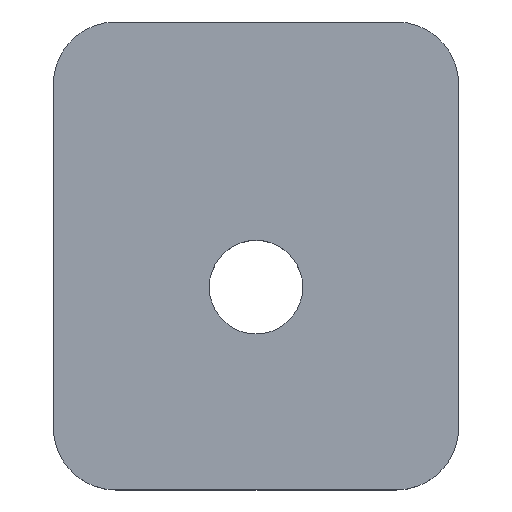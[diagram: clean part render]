
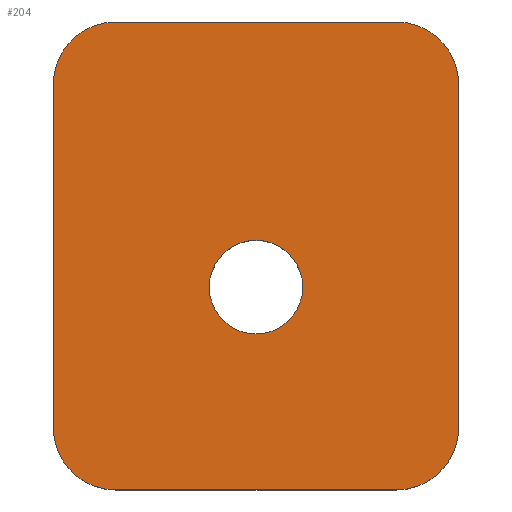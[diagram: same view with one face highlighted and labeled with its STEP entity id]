
A CAD part, top view. The second image highlights one B-rep face of the part: STEP entity #204.
In plain terms, the highlighted planar face has unit normal (0, 0, 1).
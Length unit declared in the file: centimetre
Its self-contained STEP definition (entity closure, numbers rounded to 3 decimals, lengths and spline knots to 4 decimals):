
#15=FACE_BOUND('',#44,.T.);
#21=PLANE('',#239);
#32=FACE_OUTER_BOUND('',#43,.T.);
#43=EDGE_LOOP('',(#172,#173,#174,#175,#176,#177,#178,#179));
#44=EDGE_LOOP('',(#180));
#50=LINE('',#316,#67);
#54=LINE('',#328,#71);
#58=LINE('',#340,#75);
#62=LINE('',#352,#79);
#67=VECTOR('',#254,1.);
#71=VECTOR('',#266,1.);
#75=VECTOR('',#278,1.);
#79=VECTOR('',#290,1.);
#81=CIRCLE('',#221,0.15);
#84=CIRCLE('',#226,0.2);
#86=CIRCLE('',#230,0.2);
#88=CIRCLE('',#234,0.2);
#90=CIRCLE('',#238,0.2);
#91=VERTEX_POINT('',#304);
#95=VERTEX_POINT('',#313);
#96=VERTEX_POINT('',#315);
#98=VERTEX_POINT('',#321);
#100=VERTEX_POINT('',#327);
#102=VERTEX_POINT('',#333);
#104=VERTEX_POINT('',#339);
#106=VERTEX_POINT('',#345);
#108=VERTEX_POINT('',#351);
#109=EDGE_CURVE('',#91,#91,#81,.T.);
#114=EDGE_CURVE('',#96,#95,#50,.T.);
#117=EDGE_CURVE('',#98,#96,#84,.T.);
#120=EDGE_CURVE('',#100,#98,#54,.T.);
#123=EDGE_CURVE('',#102,#100,#86,.T.);
#126=EDGE_CURVE('',#104,#102,#58,.T.);
#129=EDGE_CURVE('',#106,#104,#88,.T.);
#132=EDGE_CURVE('',#108,#106,#62,.T.);
#135=EDGE_CURVE('',#95,#108,#90,.T.);
#172=ORIENTED_EDGE('',*,*,#135,.T.);
#173=ORIENTED_EDGE('',*,*,#132,.T.);
#174=ORIENTED_EDGE('',*,*,#129,.T.);
#175=ORIENTED_EDGE('',*,*,#126,.T.);
#176=ORIENTED_EDGE('',*,*,#123,.T.);
#177=ORIENTED_EDGE('',*,*,#120,.T.);
#178=ORIENTED_EDGE('',*,*,#117,.T.);
#179=ORIENTED_EDGE('',*,*,#114,.T.);
#180=ORIENTED_EDGE('',*,*,#109,.T.);
#204=ADVANCED_FACE('',(#32,#15),#21,.T.);
#221=AXIS2_PLACEMENT_3D('',#305,#245,#246);
#226=AXIS2_PLACEMENT_3D('',#322,#260,#261);
#230=AXIS2_PLACEMENT_3D('',#334,#272,#273);
#234=AXIS2_PLACEMENT_3D('',#346,#284,#285);
#238=AXIS2_PLACEMENT_3D('',#356,#296,#297);
#239=AXIS2_PLACEMENT_3D('',#357,#298,#299);
#245=DIRECTION('center_axis',(0.,0.,-1.));
#246=DIRECTION('ref_axis',(1.,0.,0.));
#254=DIRECTION('',(0.,-1.,0.));
#260=DIRECTION('center_axis',(0.,0.,1.));
#261=DIRECTION('ref_axis',(0.,1.,0.));
#266=DIRECTION('',(-1.,0.,0.));
#272=DIRECTION('center_axis',(0.,0.,1.));
#273=DIRECTION('ref_axis',(1.,0.,0.));
#278=DIRECTION('',(0.,1.,0.));
#284=DIRECTION('center_axis',(0.,0.,1.));
#285=DIRECTION('ref_axis',(0.,-1.,0.));
#290=DIRECTION('',(1.,0.,0.));
#296=DIRECTION('center_axis',(0.,0.,1.));
#297=DIRECTION('ref_axis',(-1.,0.,0.));
#298=DIRECTION('center_axis',(0.,0.,1.));
#299=DIRECTION('ref_axis',(1.,0.,0.));
#304=CARTESIAN_POINT('',(2.05,-5.4,0.85));
#305=CARTESIAN_POINT('Origin',(2.2,-5.4,0.85));
#313=CARTESIAN_POINT('',(1.55,-5.85,0.85));
#315=CARTESIAN_POINT('',(1.55,-4.75,0.85));
#316=CARTESIAN_POINT('',(1.55,-4.75,0.85));
#321=CARTESIAN_POINT('',(1.75,-4.55,0.85));
#322=CARTESIAN_POINT('Origin',(1.75,-4.75,0.85));
#327=CARTESIAN_POINT('',(2.65,-4.55,0.85));
#328=CARTESIAN_POINT('',(2.65,-4.55,0.85));
#333=CARTESIAN_POINT('',(2.85,-4.75,0.85));
#334=CARTESIAN_POINT('Origin',(2.65,-4.75,0.85));
#339=CARTESIAN_POINT('',(2.85,-5.85,0.85));
#340=CARTESIAN_POINT('',(2.85,-5.85,0.85));
#345=CARTESIAN_POINT('',(2.65,-6.05,0.85));
#346=CARTESIAN_POINT('Origin',(2.65,-5.85,0.85));
#351=CARTESIAN_POINT('',(1.75,-6.05,0.85));
#352=CARTESIAN_POINT('',(1.75,-6.05,0.85));
#356=CARTESIAN_POINT('Origin',(1.75,-5.85,0.85));
#357=CARTESIAN_POINT('Origin',(2.2,-5.3,0.85));
